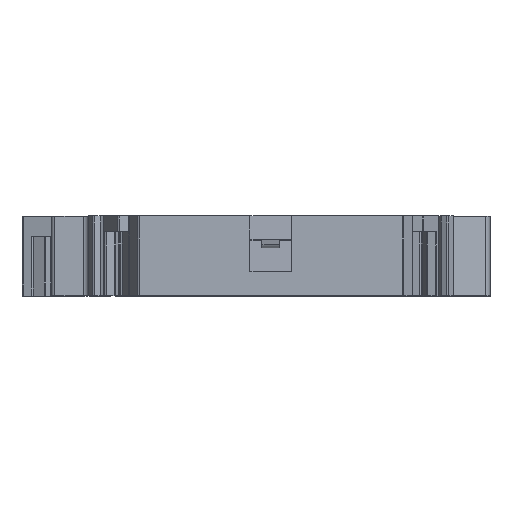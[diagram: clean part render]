
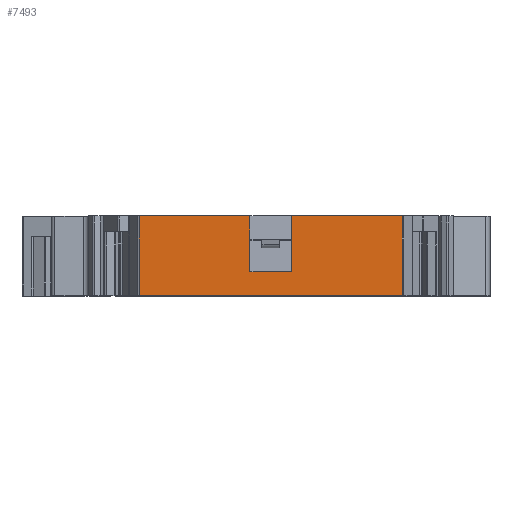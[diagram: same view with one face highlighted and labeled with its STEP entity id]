
A CAD part, top view. The second image highlights one B-rep face of the part: STEP entity #7493.
In plain terms, the highlighted planar face has unit normal (0, 0, 1).
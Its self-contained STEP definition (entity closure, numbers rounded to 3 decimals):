
#1369=ORIENTED_EDGE('',*,*,#3220,.T.);
#1370=ORIENTED_EDGE('',*,*,#3201,.F.);
#1371=ORIENTED_EDGE('',*,*,#2771,.T.);
#1372=ORIENTED_EDGE('',*,*,#3215,.F.);
#1373=ORIENTED_EDGE('',*,*,#3221,.T.);
#1374=ORIENTED_EDGE('',*,*,#3222,.T.);
#1375=ORIENTED_EDGE('',*,*,#3223,.F.);
#1376=ORIENTED_EDGE('',*,*,#3195,.T.);
#2771=EDGE_CURVE('',#3848,#3847,#4559,.T.);
#3195=EDGE_CURVE('',#4129,#4128,#4897,.F.);
#3201=EDGE_CURVE('',#3848,#4130,#4902,.T.);
#3215=EDGE_CURVE('',#4133,#3847,#4916,.T.);
#3220=EDGE_CURVE('',#4128,#4130,#4921,.T.);
#3221=EDGE_CURVE('',#4133,#4134,#4922,.T.);
#3222=EDGE_CURVE('',#4134,#4135,#4923,.T.);
#3223=EDGE_CURVE('',#4129,#4135,#4924,.T.);
#3847=VERTEX_POINT('',#10858);
#3848=VERTEX_POINT('',#10860);
#4128=VERTEX_POINT('',#11715);
#4129=VERTEX_POINT('',#11717);
#4130=VERTEX_POINT('',#11725);
#4133=VERTEX_POINT('',#11743);
#4134=VERTEX_POINT('',#11752);
#4135=VERTEX_POINT('',#11754);
#4559=LINE('',#10859,#5431);
#4897=LINE('',#11716,#5769);
#4902=LINE('',#11724,#5774);
#4916=LINE('',#11744,#5788);
#4921=LINE('',#11750,#5793);
#4922=LINE('',#11751,#5794);
#4923=LINE('',#11753,#5795);
#4924=LINE('',#11755,#5796);
#5431=VECTOR('',#8662,1000.);
#5769=VECTOR('',#9476,1000.);
#5774=VECTOR('',#9485,1000.);
#5788=VECTOR('',#9503,1000.);
#5793=VECTOR('',#9510,1000.);
#5794=VECTOR('',#9511,1000.);
#5795=VECTOR('',#9512,1000.);
#5796=VECTOR('',#9513,1000.);
#6365=EDGE_LOOP('',(#1369,#1370,#1371,#1372,#1373,#1374,#1375,#1376));
#6796=FACE_BOUND('',#6365,.T.);
#7159=PLANE('',#8026);
#7493=ADVANCED_FACE('',(#6796),#7159,.T.);
#8026=AXIS2_PLACEMENT_3D('',#11749,#9508,#9509);
#8662=DIRECTION('',(-1.,0.,0.));
#9476=DIRECTION('',(0.,-1.,0.));
#9485=DIRECTION('',(0.,1.,0.));
#9503=DIRECTION('',(0.,-1.,0.));
#9508=DIRECTION('',(0.,0.,1.));
#9509=DIRECTION('',(1.,0.,0.));
#9510=DIRECTION('',(-1.,0.,0.));
#9511=DIRECTION('',(-1.,0.,0.));
#9512=DIRECTION('',(0.,-1.,0.));
#9513=DIRECTION('',(-1.,0.,0.));
#10858=CARTESIAN_POINT('',(-2.1,0.4,26.7));
#10859=CARTESIAN_POINT('',(-2.,0.4,26.7));
#10860=CARTESIAN_POINT('',(2.1,0.4,26.7));
#11715=CARTESIAN_POINT('',(13.213,6.,26.7));
#11716=CARTESIAN_POINT('',(13.213,5.,26.7));
#11717=CARTESIAN_POINT('',(13.213,-2.,26.7));
#11724=CARTESIAN_POINT('',(2.1,0.5,26.7));
#11725=CARTESIAN_POINT('',(2.1,6.,26.7));
#11743=CARTESIAN_POINT('',(-2.1,6.,26.7));
#11744=CARTESIAN_POINT('',(-2.1,3.5,26.7));
#11749=CARTESIAN_POINT('',(19.5,5.,26.7));
#11750=CARTESIAN_POINT('',(19.5,6.,26.7));
#11751=CARTESIAN_POINT('',(19.5,6.,26.7));
#11752=CARTESIAN_POINT('',(-13.213,6.,26.7));
#11753=CARTESIAN_POINT('',(-13.213,5.,26.7));
#11754=CARTESIAN_POINT('',(-13.213,-2.,26.7));
#11755=CARTESIAN_POINT('',(19.5,-2.,26.7));
